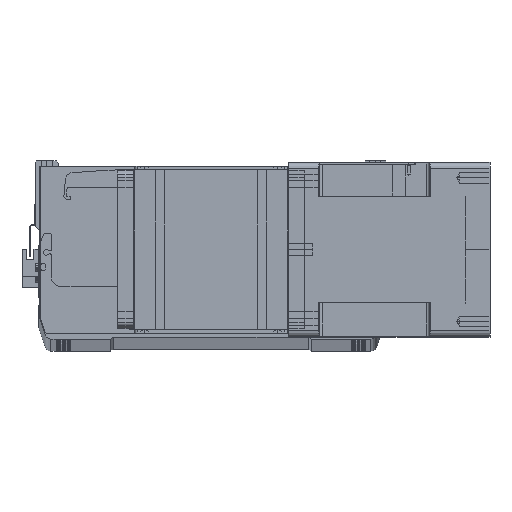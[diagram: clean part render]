
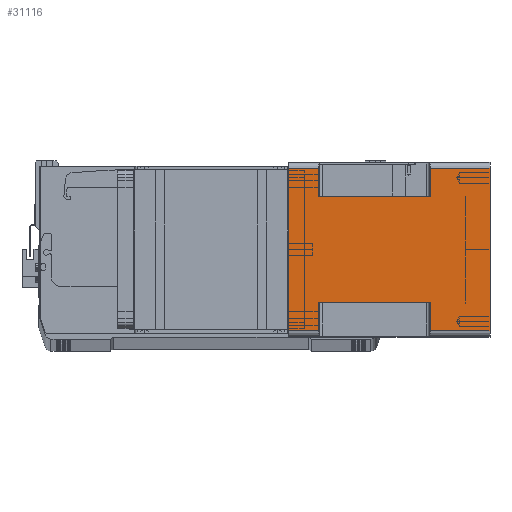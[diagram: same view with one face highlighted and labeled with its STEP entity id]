
A CAD part, top view. The second image highlights one B-rep face of the part: STEP entity #31116.
In plain terms, the highlighted planar face has unit normal (0, 0, 1) as drawn and (1, 0, 0) by its records, which use the part's own axes.
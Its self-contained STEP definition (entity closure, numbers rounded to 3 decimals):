
#159 = DIRECTION ( 'NONE',  ( 0., 1., 0. ) ) ;
#195 = VERTEX_POINT ( 'NONE', #39678 ) ;
#291 = ORIENTED_EDGE ( 'NONE', *, *, #6002, .T. ) ;
#537 = CARTESIAN_POINT ( 'NONE',  ( 71., -66., -24.5 ) ) ;
#570 = PLANE ( 'NONE',  #1438 ) ;
#703 = DIRECTION ( 'NONE',  ( 1., 0., 0. ) ) ;
#1007 = VECTOR ( 'NONE', #16888, 1000. ) ;
#1438 = AXIS2_PLACEMENT_3D ( 'NONE', #29468, #703, #26000 ) ;
#2432 = CARTESIAN_POINT ( 'NONE',  ( 71., 43., -115.5 ) ) ;
#2477 = DIRECTION ( 'NONE',  ( 0., 1., 0. ) ) ;
#2564 = CARTESIAN_POINT ( 'NONE',  ( 71., -66., -164. ) ) ;
#2748 = CARTESIAN_POINT ( 'NONE',  ( 71., -66., 0. ) ) ;
#3012 = ORIENTED_EDGE ( 'NONE', *, *, #37181, .F. ) ;
#3101 = EDGE_CURVE ( 'NONE', #20700, #39321, #7070, .T. ) ;
#3645 = VECTOR ( 'NONE', #23638, 1000. ) ;
#4105 = VECTOR ( 'NONE', #25836, 1000. ) ;
#4240 = EDGE_CURVE ( 'NONE', #10500, #9993, #32297, .T. ) ;
#4907 = EDGE_CURVE ( 'NONE', #29797, #9993, #38664, .T. ) ;
#5416 = VECTOR ( 'NONE', #16092, 1000. ) ;
#5765 = VERTEX_POINT ( 'NONE', #27550 ) ;
#6002 = EDGE_CURVE ( 'NONE', #35884, #20700, #24492, .T. ) ;
#6737 = EDGE_CURVE ( 'NONE', #20225, #29797, #26509, .T. ) ;
#6787 = ORIENTED_EDGE ( 'NONE', *, *, #25994, .F. ) ;
#6830 = CARTESIAN_POINT ( 'NONE',  ( 71., -66., -115.5 ) ) ;
#7070 = LINE ( 'NONE', #32948, #8077 ) ;
#7312 = CARTESIAN_POINT ( 'NONE',  ( 71., 66., -164. ) ) ;
#7326 = FACE_OUTER_BOUND ( 'NONE', #24458, .T. ) ;
#7576 = DIRECTION ( 'NONE',  ( 0., 0., 1. ) ) ;
#8077 = VECTOR ( 'NONE', #39511, 1000. ) ;
#8620 = LINE ( 'NONE', #2432, #25678 ) ;
#8745 = CARTESIAN_POINT ( 'NONE',  ( 71., 66., -115.5 ) ) ;
#9632 = CARTESIAN_POINT ( 'NONE',  ( 71., 43., -164. ) ) ;
#9656 = EDGE_CURVE ( 'NONE', #20225, #5765, #18687, .T. ) ;
#9993 = VERTEX_POINT ( 'NONE', #16827 ) ;
#10500 = VERTEX_POINT ( 'NONE', #12384 ) ;
#11076 = LINE ( 'NONE', #21688, #35613 ) ;
#11227 = CARTESIAN_POINT ( 'NONE',  ( 71., -66., -164. ) ) ;
#11785 = VERTEX_POINT ( 'NONE', #31795 ) ;
#11864 = DIRECTION ( 'NONE',  ( 0., 0., 1. ) ) ;
#12156 = EDGE_CURVE ( 'NONE', #11785, #23357, #19331, .T. ) ;
#12303 = DIRECTION ( 'NONE',  ( 0., 0., -1. ) ) ;
#12384 = CARTESIAN_POINT ( 'NONE',  ( 71., 66., -24.5 ) ) ;
#12755 = CARTESIAN_POINT ( 'NONE',  ( 71., -66., -115.5 ) ) ;
#13820 = CARTESIAN_POINT ( 'NONE',  ( 71., -43., -24.5 ) ) ;
#14107 = EDGE_CURVE ( 'NONE', #11785, #10500, #19127, .T. ) ;
#14565 = ORIENTED_EDGE ( 'NONE', *, *, #9656, .T. ) ;
#14640 = CARTESIAN_POINT ( 'NONE',  ( 71., -66., 0. ) ) ;
#15416 = CARTESIAN_POINT ( 'NONE',  ( 71., 43., -115.5 ) ) ;
#15993 = CARTESIAN_POINT ( 'NONE',  ( 71., -66., -24.5 ) ) ;
#16070 = LINE ( 'NONE', #6830, #1007 ) ;
#16092 = DIRECTION ( 'NONE',  ( 0., 0., 1. ) ) ;
#16647 = LINE ( 'NONE', #11227, #26701 ) ;
#16827 = CARTESIAN_POINT ( 'NONE',  ( 71., 66., 0. ) ) ;
#16888 = DIRECTION ( 'NONE',  ( 0., -1., 0. ) ) ;
#18129 = DIRECTION ( 'NONE',  ( 0., -1., 0. ) ) ;
#18687 = LINE ( 'NONE', #13820, #3645 ) ;
#19127 = LINE ( 'NONE', #537, #4105 ) ;
#19331 = LINE ( 'NONE', #9632, #29878 ) ;
#20108 = VECTOR ( 'NONE', #2477, 1000. ) ;
#20225 = VERTEX_POINT ( 'NONE', #15993 ) ;
#20700 = VERTEX_POINT ( 'NONE', #25417 ) ;
#21688 = CARTESIAN_POINT ( 'NONE',  ( 71., -43., -164. ) ) ;
#22502 = ORIENTED_EDGE ( 'NONE', *, *, #25884, .T. ) ;
#22642 = ORIENTED_EDGE ( 'NONE', *, *, #6737, .F. ) ;
#23357 = VERTEX_POINT ( 'NONE', #15416 ) ;
#23456 = VERTEX_POINT ( 'NONE', #12755 ) ;
#23638 = DIRECTION ( 'NONE',  ( 0., 1., 0. ) ) ;
#24458 = EDGE_LOOP ( 'NONE', ( #6787, #22502, #3012, #291, #32180, #26809, #41244, #39889, #27798, #34454, #22642, #14565 ) ) ;
#24492 = LINE ( 'NONE', #38429, #38472 ) ;
#25417 = CARTESIAN_POINT ( 'NONE',  ( 71., 66., -164. ) ) ;
#25678 = VECTOR ( 'NONE', #18129, 1000. ) ;
#25836 = DIRECTION ( 'NONE',  ( 0., 1., 0. ) ) ;
#25884 = EDGE_CURVE ( 'NONE', #195, #23456, #16070, .T. ) ;
#25994 = EDGE_CURVE ( 'NONE', #195, #5765, #11076, .T. ) ;
#26000 = DIRECTION ( 'NONE',  ( 0., 1., 0. ) ) ;
#26236 = CARTESIAN_POINT ( 'NONE',  ( 71., -66., -164. ) ) ;
#26509 = LINE ( 'NONE', #26236, #5416 ) ;
#26701 = VECTOR ( 'NONE', #30010, 1000. ) ;
#26809 = ORIENTED_EDGE ( 'NONE', *, *, #32704, .T. ) ;
#27550 = CARTESIAN_POINT ( 'NONE',  ( 71., -43., -24.5 ) ) ;
#27798 = ORIENTED_EDGE ( 'NONE', *, *, #4240, .T. ) ;
#29468 = CARTESIAN_POINT ( 'NONE',  ( 71., -66., -164. ) ) ;
#29797 = VERTEX_POINT ( 'NONE', #14640 ) ;
#29878 = VECTOR ( 'NONE', #12303, 1000. ) ;
#30010 = DIRECTION ( 'NONE',  ( 0., 0., 1. ) ) ;
#31116 = ADVANCED_FACE ( 'NONE', ( #7326 ), #570, .T. ) ;
#31795 = CARTESIAN_POINT ( 'NONE',  ( 71., 43., -24.5 ) ) ;
#32180 = ORIENTED_EDGE ( 'NONE', *, *, #3101, .T. ) ;
#32297 = LINE ( 'NONE', #7312, #37289 ) ;
#32704 = EDGE_CURVE ( 'NONE', #39321, #23357, #8620, .T. ) ;
#32948 = CARTESIAN_POINT ( 'NONE',  ( 71., 66., -164. ) ) ;
#34454 = ORIENTED_EDGE ( 'NONE', *, *, #4907, .F. ) ;
#35613 = VECTOR ( 'NONE', #11864, 1000. ) ;
#35884 = VERTEX_POINT ( 'NONE', #2564 ) ;
#37181 = EDGE_CURVE ( 'NONE', #35884, #23456, #16647, .T. ) ;
#37289 = VECTOR ( 'NONE', #7576, 1000. ) ;
#38429 = CARTESIAN_POINT ( 'NONE',  ( 71., -66., -164. ) ) ;
#38472 = VECTOR ( 'NONE', #159, 1000. ) ;
#38664 = LINE ( 'NONE', #2748, #20108 ) ;
#39321 = VERTEX_POINT ( 'NONE', #8745 ) ;
#39511 = DIRECTION ( 'NONE',  ( 0., 0., 1. ) ) ;
#39678 = CARTESIAN_POINT ( 'NONE',  ( 71., -43., -115.5 ) ) ;
#39889 = ORIENTED_EDGE ( 'NONE', *, *, #14107, .T. ) ;
#41244 = ORIENTED_EDGE ( 'NONE', *, *, #12156, .F. ) ;
